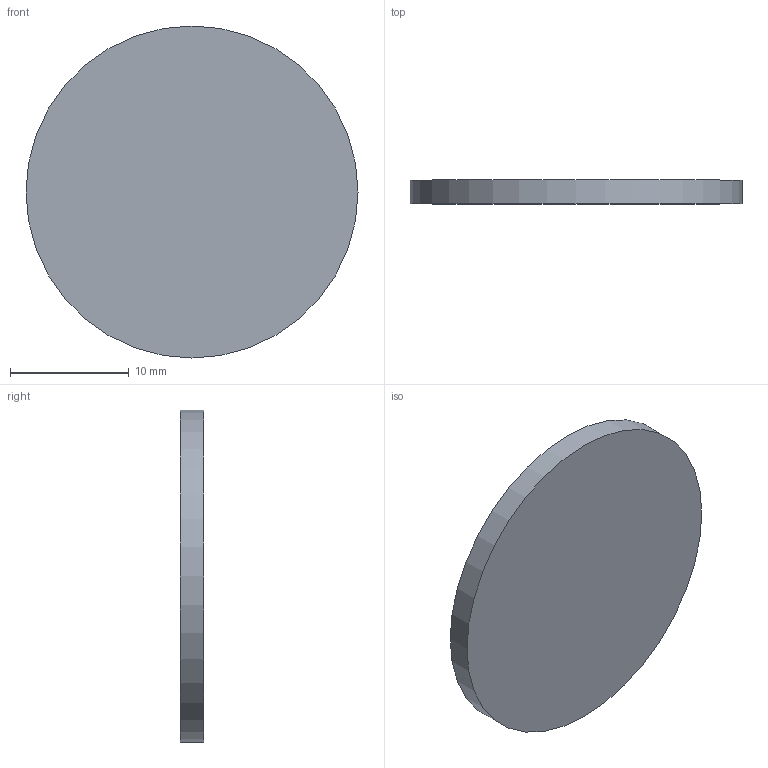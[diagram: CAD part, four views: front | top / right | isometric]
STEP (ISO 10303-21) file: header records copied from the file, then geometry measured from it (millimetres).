
FILE_DESCRIPTION(('Open CASCADE Model'),'2;1');
FILE_NAME('Open CASCADE Shape Model','2026-10-06T19:56:09',('Author'),( 'Open CASCADE'),'Open CASCADE STEP processor 7.9','Open CASCADE 7.9' ,'Unknown');
FILE_SCHEMA(('AUTOMOTIVE_DESIGN { 1 0 10303 214 1 1 1 1 }'));
Length unit declared in the file: millimetre
Products named in the file (1): Open CASCADE STEP translator 7.9 21
Bounding box: 28 x 2 x 28 mm (x, y, z)
Volume: 1231.5 mm3; surface area: 1407.4 mm2
Topology: 1 solids, 1 shells, 3 faces, 3 edges, 2 vertices
Faces by surface type: plane 2, cylinder 1
Full cylindrical faces by diameter (mm): 28 x1
Entity records: 108 total; most frequent: DIRECTION 19, CARTESIAN_POINT 15, AXIS2_PLACEMENT_3D 6, ORIENTED_EDGE 6, PCURVE 6, DEFINITIONAL_REPRESENTATION 6, LINE 5, VECTOR 5
